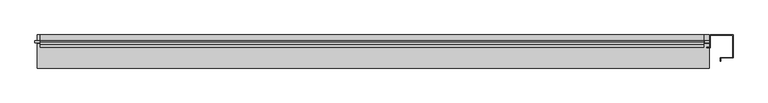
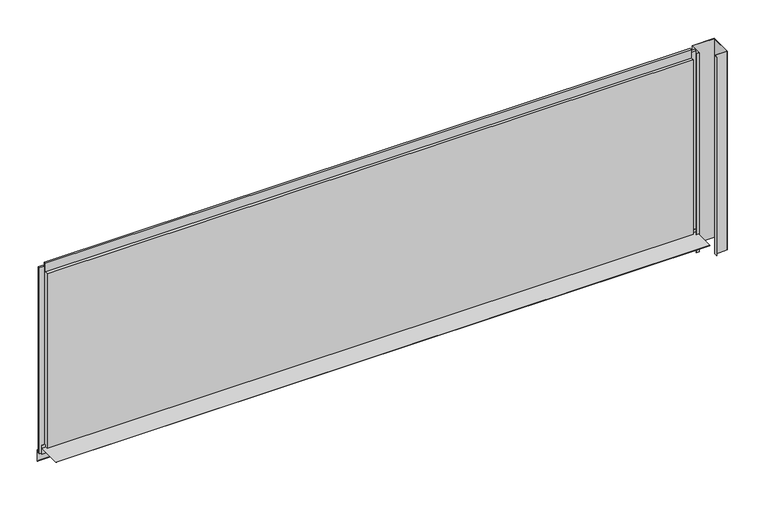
"""IFC4 building model written with IfcOpenShell, lengths in millimetres: plate geometry, Trimo_Qbiss Screen_Normal Panel-HORIZONTAL : HR - B."""

from ifc_helpers import new_model, si_unit, frame, origin, place, context, project, spatial, polyline, outline, extrude, source, transform, mapped, element, save


def plate_870a59b6(model_context):
    return source(origin(), model_context, "Body", "SweptSolid", [
        extrude(outline(polyline([(66.7, 14.0835797), (67.5, 14.0835797), (67.5, -23.0), (100.0, -25.8433816), (100.0, -76.0), (87.1509533, -63.1509533), (87.7166388, -62.5852679), (99.2, -74.0686292), (99.2, -26.5764465), (66.7, -23.7330649), (66.7, 1.0), (-32.5, 1.0), (-32.5, 1.8), (66.7, 1.8), (66.7, 14.0835797)])), frame((-1341.25, 0.0, 0.0), z_axis=(1.0, 0.0, 0.0), x_axis=(0.0, 1.0, 0.0)), (0.0, 0.0, 1.0), 2687.5),
        extrude(outline(polyline([(-1331.75, 76.5978162), (-1331.75, 67.8978162), (-1350.75, 67.8978162), (-1350.75, 76.5978162), (-1331.75, 76.5978162)])), frame((0.0, 0.0, -20.0), z_axis=(0.0, 0.0, 1.0), x_axis=(1.0, 0.0, 0.0)), (0.0, 0.0, 1.0), 806.95),
        extrude(outline(polyline([(1327.25, 67.8978162), (1327.25, 76.5978162), (1346.25, 76.5978162), (1346.25, 67.8978162), (1327.25, 67.8978162)])), frame((0.0, 0.0, -20.0), z_axis=(0.0, 0.0, 1.0), x_axis=(1.0, 0.0, 0.0)), (0.0, 0.0, 1.0), 806.95),
        extrude(outline(polyline([(1324.25, 76.0), (1324.25, 71.0), (-1328.75, 71.0), (-1328.75, 76.0), (1324.25, 76.0)])), frame((0.0, 0.0, 765.95), z_axis=(0.0, 0.0, 1.0), x_axis=(1.0, 0.0, 0.0)), (0.0, 0.0, 1.0), 21.0),
        extrude(outline(polyline([(71.0, 764.95), (100.0, 764.95), (100.0, 0.0), (72.0, 0.0), (72.0, 15.5), (62.0, 15.5), (62.0, 7.0), (50.0, 7.0), (50.0, 764.95), (63.0, 764.95), (63.0, 802.45), (71.0, 802.45), (71.0, 764.95)])), frame((-1328.75, 0.0, 0.0), z_axis=(1.0, 0.0, 0.0), x_axis=(0.0, 1.0, 0.0)), (0.0, 0.0, 1.0), 2653.0),
        extrude(outline(polyline([(1349.25, 50.0), (1349.25, 100.0), (1441.25, 100.0), (1441.25, 8.0), (1391.25, 8.0), (1391.25, -4.5), (1390.45, -4.5), (1390.45, 8.8), (1440.45, 8.8), (1440.45, 99.2), (1350.05, 99.2), (1350.05, 49.1823429), (1336.75, 49.1823429), (1336.75, 50.0), (1349.25, 50.0)])), frame((0.0, 0.0, -76.0), z_axis=(0.0, 0.0, 1.0), x_axis=(1.0, 0.0, 0.0)), (0.0, 0.0, 1.0), 862.95),
    ])


if __name__ == "__main__":
    model = new_model("IFC4")
    model_context = context("Model", 3, world=origin())
    ifc_project = project(units=[si_unit("LENGTHUNIT", "METRE", prefix="MILLI")], contexts=[model_context])
    site = spatial("IfcSite", under=ifc_project)
    building = spatial("IfcBuilding", under=site)
    placement = place(None, origin())
    plate_shape = plate_870a59b6(model_context)
    element("IfcPlate", 1, ObjectType="Trimo_Qbiss Screen_Normal Panel-HORIZONTAL : HR - B", at=placement, inside=building, context=model_context, shape_type="MappedRepresentation", body=[
        mapped(plate_shape, transform((0.0, 0.0, 0.0), x_axis=(1.0, 0.0, 0.0), y_axis=(0.0, 1.0, 0.0), z_axis=(0.0, 0.0, 1.0))),
    ])
    save(model, "model.ifc")
